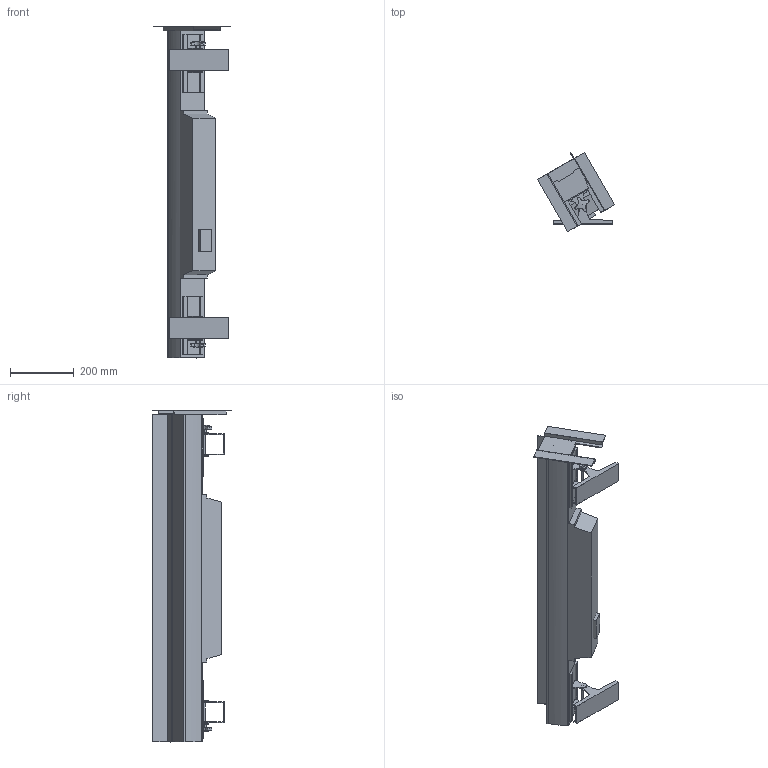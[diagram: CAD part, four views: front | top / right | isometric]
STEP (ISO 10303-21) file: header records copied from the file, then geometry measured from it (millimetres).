
FILE_DESCRIPTION(/* description */ (''),/* implementation_level */ '2;1');
FILE_NAME(/* name */ 'D:/dgooch/Documents/CADENG/PRO/Colorado Batten Q15/30/COLORado Batten Q15_30.step',/* time_stamp */ '2020-01-17T11:14:38-05:00',/* author */ (''),/* organization */ (''),/* preprocessor_version */ 'ST-DEVELOPER v18',/* originating_system */ 'Autodesk Translation Framework v8.12.0.6',/* authorisation */ '');
FILE_SCHEMA (('AUTOMOTIVE_DESIGN { 1 0 10303 214 3 1 1 }'));
Length unit declared in the file: millimetre
Products named in the file (14): COLORadoBattenQ15-V2; Bracket; ZHIJIADANBAN (1); ZHIJIA02_ASM (1); LED317-25 (1); LED317-26 (1); SS361SHOUNIELUOSI (1); Bracket(Mirror); ZHIJIADANBAN (1) (1); ZHIJIA02_ASM (1) (1); LED317-25 (1) (1); LED317-26 (1) (1); SS361SHOUNIELUOSI (1) (1); Main
Assembly tree (13 placements, depth 5):
  COLORadoBattenQ15-V2
    Bracket
      ZHIJIADANBAN (1)
      ZHIJIA02_ASM (1)
        LED317-25 (1)
        LED317-26 (1)
        SS361SHOUNIELUOSI (1)
      Bracket(Mirror)
        ZHIJIADANBAN (1) (1)
        ZHIJIA02_ASM (1) (1)
          LED317-25 (1) (1)
          LED317-26 (1) (1)
          SS361SHOUNIELUOSI (1) (1)
    Main
Bounding box: 241.6 x 249.28 x 1039.7 mm (x, y, z)
Volume: 10143722.8 mm3; surface area: 733276.4 mm2
Topology: 3 solids, 3 shells, 221 faces, 616 edges, 410 vertices
Faces by surface type: plane 186, cylinder 33, sphere 2
Full cylindrical faces by diameter (mm): 6 x6
Entity records: 7514 total; most frequent: CARTESIAN_POINT 1392, ORIENTED_EDGE 1228, DIRECTION 1181, EDGE_CURVE 614, LINE 527, VECTOR 527, VERTEX_POINT 410, AXIS2_PLACEMENT_3D 327
